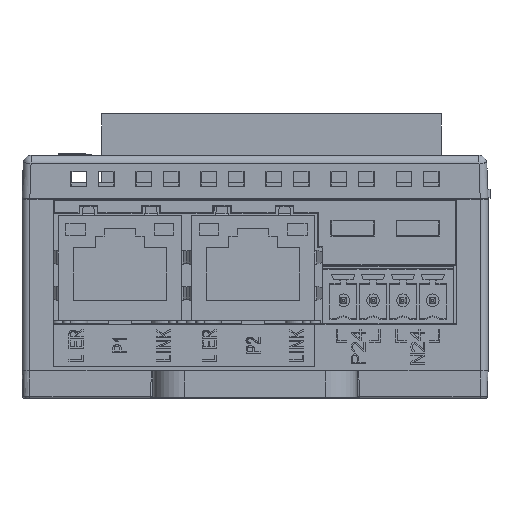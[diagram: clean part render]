
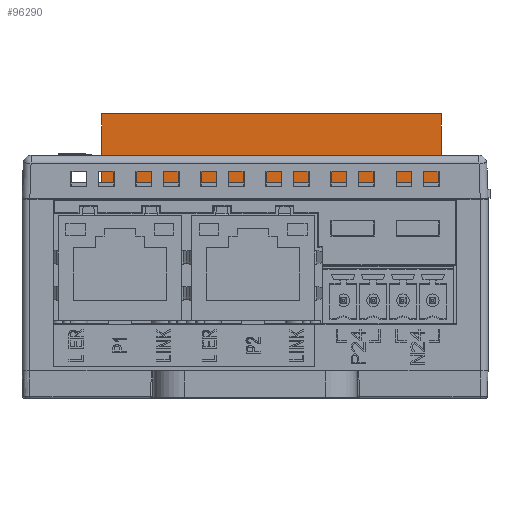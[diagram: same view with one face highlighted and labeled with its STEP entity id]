
A CAD part, front view. The second image highlights one B-rep face of the part: STEP entity #96290.
In plain terms, the highlighted planar face has unit normal (0, -1, 0).
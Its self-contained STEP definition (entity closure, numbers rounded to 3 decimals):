
#16724=DIRECTION('',(1.,0.,0.));
#16725=VECTOR('',#16724,43.3);
#16726=CARTESIAN_POINT('',(-19.55,-19.15,27.5));
#16727=LINE('',#16726,#16725);
#19160=DIRECTION('',(0.,0.,-1.));
#19161=VECTOR('',#19160,8.8);
#19162=CARTESIAN_POINT('',(23.75,-19.15,36.3));
#19163=LINE('',#19162,#19161);
#19168=DIRECTION('',(0.,0.,-1.));
#19169=VECTOR('',#19168,8.8);
#19170=CARTESIAN_POINT('',(-19.55,-19.15,36.3));
#19171=LINE('',#19170,#19169);
#19172=DIRECTION('',(-1.,0.,0.));
#19173=VECTOR('',#19172,43.3);
#19174=CARTESIAN_POINT('',(23.75,-19.15,36.3));
#19175=LINE('',#19174,#19173);
#46178=CARTESIAN_POINT('',(-19.55,-19.15,36.3));
#46180=VERTEX_POINT('',#46178);
#46184=CARTESIAN_POINT('',(23.75,-19.15,36.3));
#46185=VERTEX_POINT('',#46184);
#58001=CARTESIAN_POINT('',(-19.55,-19.15,27.5));
#58003=VERTEX_POINT('',#58001);
#58004=CARTESIAN_POINT('',(23.75,-19.15,27.5));
#58005=VERTEX_POINT('',#58004);
#96278=CARTESIAN_POINT('',(2.1,-19.15,31.7));
#96279=DIRECTION('',(0.,1.,0.));
#96280=DIRECTION('',(1.,0.,0.));
#96281=AXIS2_PLACEMENT_3D('',#96278,#96279,#96280);
#96282=PLANE('',#96281);
#96283=ORIENTED_EDGE('',*,*,#92435,.F.);
#96284=ORIENTED_EDGE('',*,*,#96224,.F.);
#96286=ORIENTED_EDGE('',*,*,#96285,.F.);
#96287=ORIENTED_EDGE('',*,*,#96263,.T.);
#96288=EDGE_LOOP('',(#96283,#96284,#96286,#96287));
#96289=FACE_OUTER_BOUND('',#96288,.F.);
#96290=ADVANCED_FACE('',(#96289),#96282,.F.);
#92435=EDGE_CURVE('',#58003,#58005,#16727,.T.);
#96224=EDGE_CURVE('',#46180,#58003,#19171,.T.);
#96263=EDGE_CURVE('',#46185,#58005,#19163,.T.);
#96285=EDGE_CURVE('',#46185,#46180,#19175,.T.);
